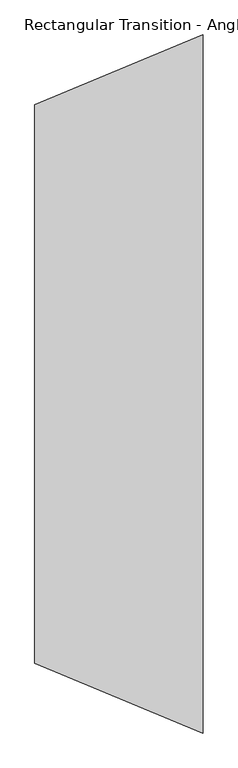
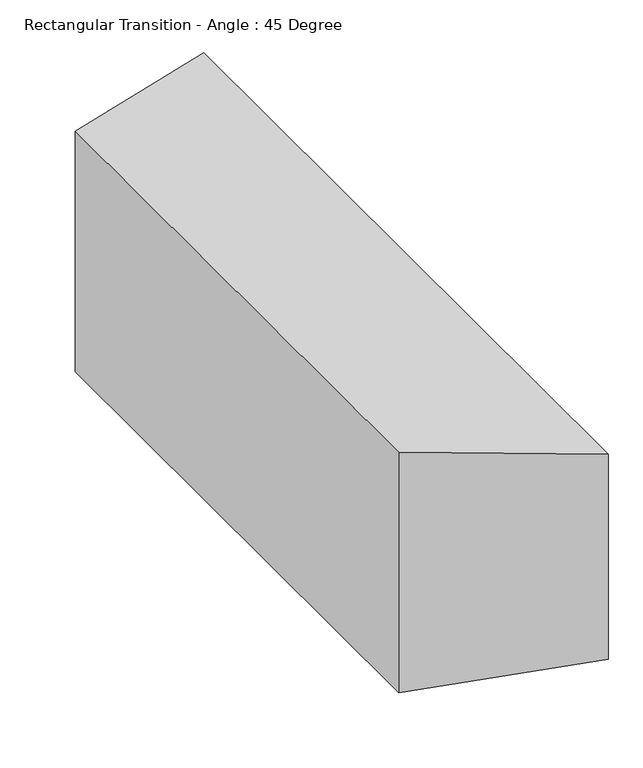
"""IFC4 building model written with IfcOpenShell, lengths in millimetres: duct fitting geometry, Rectangular Transition - Angle : 45 Degree."""

from ifc_helpers import new_model, si_unit, origin, place, context, project, spatial, faceted_brep, source, transform, mapped, element, save


def rectangular_transition_angle_45_degree_32a00531(model_context):
    return source(origin(), model_context, "Body", "Brep", [
        faceted_brep([(337.2656347, -698.5, 215.9), (337.2656347, -698.5, -215.9), (337.2656347, 698.5, -215.9), (337.2656347, 698.5, 215.9), (0.0, -558.8, 254.0), (0.0, 558.8, 254.0), (0.0, 558.8, -254.0), (0.0, -558.8, -254.0)], [[[0, 1, 2, 3]], [[4, 5, 6, 7]], [[4, 7, 1, 0]], [[7, 6, 2, 1]], [[6, 5, 3, 2]], [[5, 4, 0, 3]]]),
    ])


if __name__ == "__main__":
    model = new_model("IFC4")
    model_context = context("Model", 3, world=origin())
    ifc_project = project(units=[si_unit("LENGTHUNIT", "METRE", prefix="MILLI")], contexts=[model_context])
    site = spatial("IfcSite", under=ifc_project)
    building = spatial("IfcBuilding", under=site)
    placement = place(None, origin())
    rectangular_transition_angle_45_degree_shape = rectangular_transition_angle_45_degree_32a00531(model_context)
    element("IfcDuctFitting", 1, ObjectType="Rectangular Transition - Angle : 45 Degree", at=placement, inside=building, context=model_context, shape_type="MappedRepresentation", body=[
        mapped(rectangular_transition_angle_45_degree_shape, transform((0.0, 0.0, 0.0), x_axis=(1.0, 0.0, 0.0), y_axis=(0.0, 1.0, 0.0), z_axis=(0.0, 0.0, 1.0))),
    ])
    save(model, "model.ifc")
